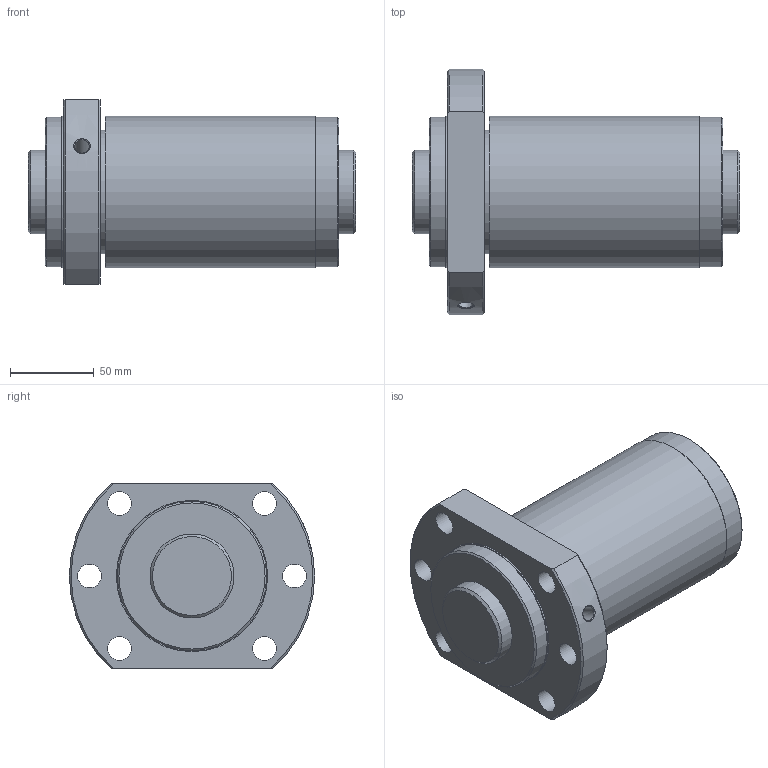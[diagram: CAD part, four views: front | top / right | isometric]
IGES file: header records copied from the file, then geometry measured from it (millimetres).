
Start section: Data from Parasolid IGES Translator 26.0.171, Copyright(c) 2006 Siemens PLM Software. All Rights Reserved.
Global section: file name: SBK5050-5.6RRG0+195LC0(0000).igs; native system: By Siemens PLM Incorporated; preprocessor: XPlus GENERIC/IGES 26.0.171; author: Noname; organization: Noname; date: 20240528.112037; units: millimetre
Bounding box: 195 x 146 x 110 mm (x, y, z)
Surface area: 147764.4 mm2 (no closed solid volume)
Topology: 0 solids, 0 shells, 37 faces, 159 edges, 132 vertices
Faces by surface type: revolution 26, extrusion 11
